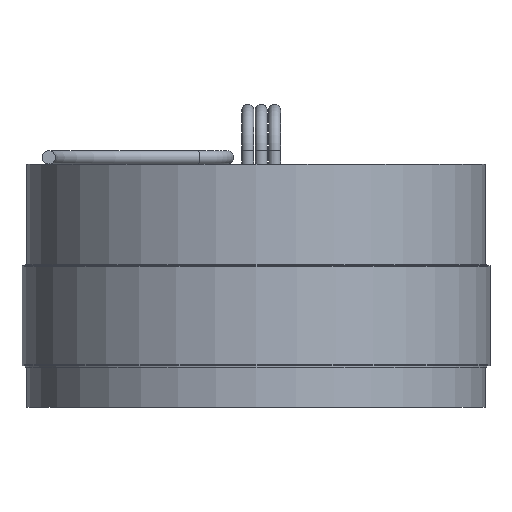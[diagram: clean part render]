
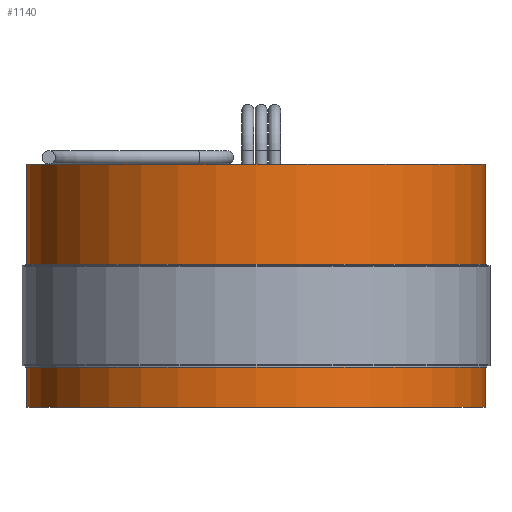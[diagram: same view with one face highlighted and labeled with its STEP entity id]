
A CAD part, front view. The second image highlights one B-rep face of the part: STEP entity #1140.
In plain terms, the highlighted cylindrical face has radius 43.561 mm (diameter 87.122 mm), a full revolution.
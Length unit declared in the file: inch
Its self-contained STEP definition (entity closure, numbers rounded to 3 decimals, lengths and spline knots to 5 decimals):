
#12 = FACE_OUTER_BOUND ( 'NONE', #1399, .T. ) ;
#32 = CIRCLE ( 'NONE', #1066, 1.715 ) ;
#83 = FACE_OUTER_BOUND ( 'NONE', #255, .T. ) ;
#101 = DIRECTION ( 'NONE',  ( 1., 0., 0. ) ) ;
#204 = EDGE_CURVE ( 'NONE', #764, #764, #32, .T. ) ;
#255 = EDGE_LOOP ( 'NONE', ( #828 ) ) ;
#316 = CARTESIAN_POINT ( 'NONE',  ( 0., 0., 1.135 ) ) ;
#447 = AXIS2_PLACEMENT_3D ( 'NONE', #630, #1180, #762 ) ;
#532 = DIRECTION ( 'NONE',  ( 0., 0., 1. ) ) ;
#533 = AXIS2_PLACEMENT_3D ( 'NONE', #1301, #879, #101 ) ;
#612 = CARTESIAN_POINT ( 'NONE',  ( 1.715, 0., 1.135 ) ) ;
#624 = CYLINDRICAL_SURFACE ( 'NONE', #533, 1.715 ) ;
#630 = CARTESIAN_POINT ( 'NONE',  ( 0., 0., -0.685 ) ) ;
#762 = DIRECTION ( 'NONE',  ( 1., 0., 0. ) ) ;
#764 = VERTEX_POINT ( 'NONE', #612 ) ;
#828 = ORIENTED_EDGE ( 'NONE', *, *, #204, .F. ) ;
#833 = CIRCLE ( 'NONE', #447, 1.715 ) ;
#843 = ORIENTED_EDGE ( 'NONE', *, *, #891, .T. ) ;
#879 = DIRECTION ( 'NONE',  ( 0., 0., 1. ) ) ;
#891 = EDGE_CURVE ( 'NONE', #1395, #1395, #833, .T. ) ;
#1066 = AXIS2_PLACEMENT_3D ( 'NONE', #316, #532, #1414 ) ;
#1140 = ADVANCED_FACE ( 'NONE', ( #12, #83 ), #624, .T. ) ;
#1168 = CARTESIAN_POINT ( 'NONE',  ( 1.715, 0., -0.685 ) ) ;
#1180 = DIRECTION ( 'NONE',  ( 0., 0., 1. ) ) ;
#1301 = CARTESIAN_POINT ( 'NONE',  ( 0., 0., -0.685 ) ) ;
#1395 = VERTEX_POINT ( 'NONE', #1168 ) ;
#1399 = EDGE_LOOP ( 'NONE', ( #843 ) ) ;
#1414 = DIRECTION ( 'NONE',  ( 1., 0., 0. ) ) ;
